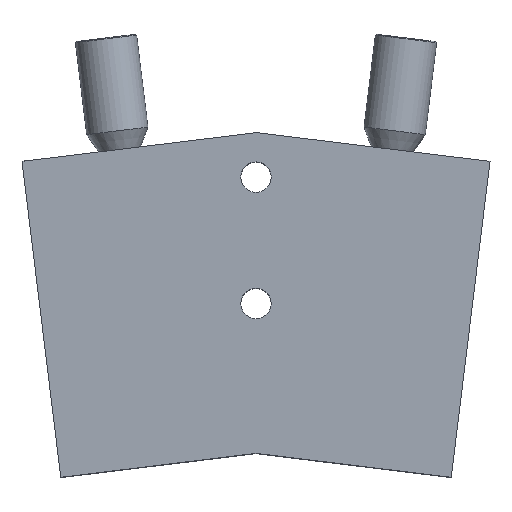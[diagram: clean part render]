
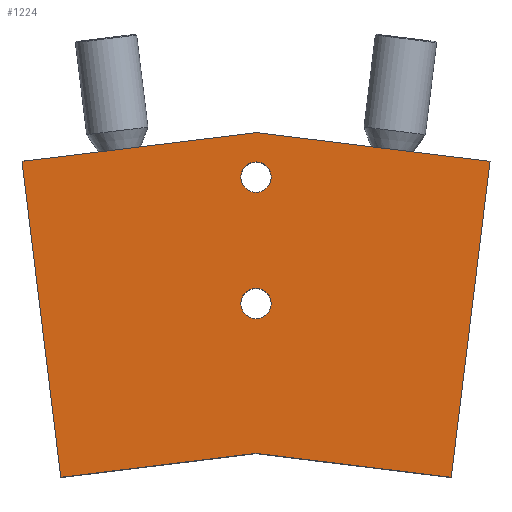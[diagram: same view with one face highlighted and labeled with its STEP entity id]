
A CAD part, top view. The second image highlights one B-rep face of the part: STEP entity #1224.
In plain terms, the highlighted planar face has unit normal (0, 0, 1).
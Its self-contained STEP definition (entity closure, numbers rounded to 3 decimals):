
#278=CARTESIAN_POINT('',(-24.987,31.187,20.0));
#279=VERTEX_POINT('',#278);
#286=CARTESIAN_POINT('',(0.,34.255,20.0));
#287=VERTEX_POINT('',#286);
#288=CARTESIAN_POINT('',(-24.987,31.187,20.0));
#289=DIRECTION('',(0.993,0.122,0.0));
#290=VECTOR('',#289,25.175);
#291=LINE('',#288,#290);
#292=EDGE_CURVE('',#279,#287,#291,.T.);
#319=CARTESIAN_POINT('',(24.987,31.187,20.0));
#320=VERTEX_POINT('',#319);
#321=CARTESIAN_POINT('',(0.,34.255,20.0));
#322=DIRECTION('',(0.993,-0.122,0.0));
#323=VECTOR('',#322,25.175);
#324=LINE('',#321,#323);
#325=EDGE_CURVE('',#287,#320,#324,.T.);
#989=CARTESIAN_POINT('',(1.621,29.5,20.0));
#990=VERTEX_POINT('',#989);
#991=CARTESIAN_POINT('',(0.0,29.5,20.0));
#992=DIRECTION('',(0.0,0.0,-1.0));
#993=DIRECTION('',(1.0,0.0,0.0));
#994=AXIS2_PLACEMENT_3D('',#991,#992,#993);
#995=CIRCLE('',#994,1.621);
#996=EDGE_CURVE('',#990,#990,#995,.T.);
#1038=CARTESIAN_POINT('',(1.621,16.0,20.0));
#1039=VERTEX_POINT('',#1038);
#1040=CARTESIAN_POINT('',(0.0,16.0,20.0));
#1041=DIRECTION('',(0.0,0.0,-1.0));
#1042=DIRECTION('',(1.0,0.0,0.0));
#1043=AXIS2_PLACEMENT_3D('',#1040,#1041,#1042);
#1044=CIRCLE('',#1043,1.621);
#1045=EDGE_CURVE('',#1039,#1039,#1044,.T.);
#1055=CARTESIAN_POINT('',(20.843,-2.559,20.0));
#1056=VERTEX_POINT('',#1055);
#1057=CARTESIAN_POINT('',(24.987,31.187,20.0));
#1058=DIRECTION('',(-0.122,-0.993,0.0));
#1059=VECTOR('',#1058,34.);
#1060=LINE('',#1057,#1059);
#1061=EDGE_CURVE('',#320,#1056,#1060,.T.);
#1089=CARTESIAN_POINT('',(0.0,0.0,20.0));
#1090=VERTEX_POINT('',#1089);
#1091=CARTESIAN_POINT('',(20.843,-2.559,20.0));
#1092=DIRECTION('',(-0.993,0.122,0.0));
#1093=VECTOR('',#1092,21.0);
#1094=LINE('',#1091,#1093);
#1095=EDGE_CURVE('',#1056,#1090,#1094,.T.);
#1123=CARTESIAN_POINT('',(-20.843,-2.559,20.0));
#1124=VERTEX_POINT('',#1123);
#1125=CARTESIAN_POINT('',(0.0,0.0,20.0));
#1126=DIRECTION('',(-0.993,-0.122,0.0));
#1127=VECTOR('',#1126,21.0);
#1128=LINE('',#1125,#1127);
#1129=EDGE_CURVE('',#1090,#1124,#1128,.T.);
#1157=CARTESIAN_POINT('',(-20.843,-2.559,20.0));
#1158=DIRECTION('',(-0.122,0.993,0.0));
#1159=VECTOR('',#1158,34.);
#1160=LINE('',#1157,#1159);
#1161=EDGE_CURVE('',#1124,#279,#1160,.T.);
#1205=CARTESIAN_POINT('',(-11.47,16.344,20.0));
#1206=DIRECTION('',(0.0,0.0,1.0));
#1207=DIRECTION('',(1.0,0.0,0.0));
#1208=AXIS2_PLACEMENT_3D('',#1205,#1206,#1207);
#1209=PLANE('',#1208);
#1210=ORIENTED_EDGE('',*,*,#292,.F.);
#1211=ORIENTED_EDGE('',*,*,#1161,.F.);
#1212=ORIENTED_EDGE('',*,*,#1129,.F.);
#1213=ORIENTED_EDGE('',*,*,#1095,.F.);
#1214=ORIENTED_EDGE('',*,*,#1061,.F.);
#1215=ORIENTED_EDGE('',*,*,#325,.F.);
#1216=EDGE_LOOP('',(#1210,#1211,#1212,#1213,#1214,#1215));
#1217=FACE_OUTER_BOUND('',#1216,.T.);
#1218=ORIENTED_EDGE('',*,*,#996,.T.);
#1219=EDGE_LOOP('',(#1218));
#1220=FACE_BOUND('',#1219,.T.);
#1221=ORIENTED_EDGE('',*,*,#1045,.T.);
#1222=EDGE_LOOP('',(#1221));
#1223=FACE_BOUND('',#1222,.T.);
#1224=ADVANCED_FACE('',(#1217,#1220,#1223),#1209,.T.);
